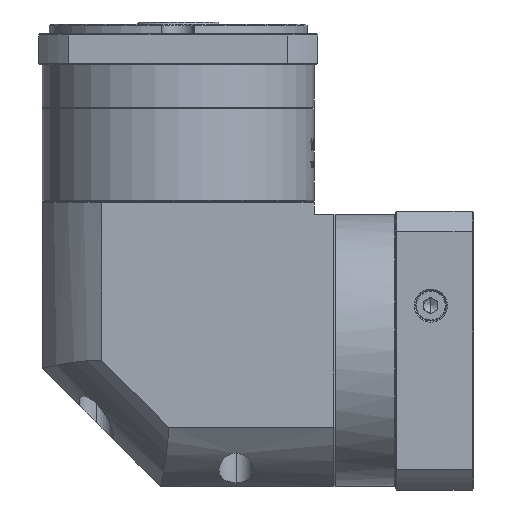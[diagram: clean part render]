
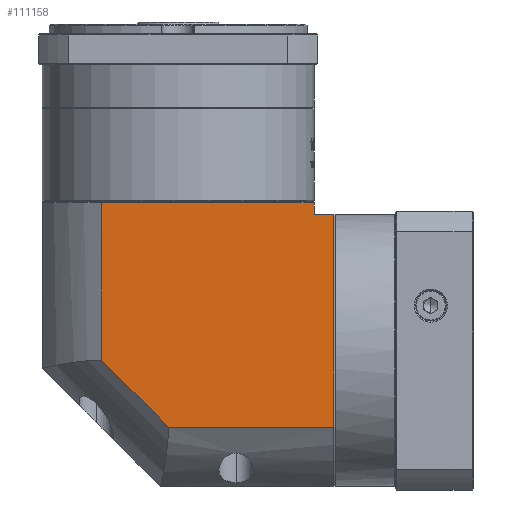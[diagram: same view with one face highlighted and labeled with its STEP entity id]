
A CAD part, left-side view. The second image highlights one B-rep face of the part: STEP entity #111158.
In plain terms, the highlighted planar face has unit normal (-1, 0, 0).
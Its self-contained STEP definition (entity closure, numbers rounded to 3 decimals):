
#924 = FACE_OUTER_BOUND ( 'NONE', #125488, .T. ) ;
#1179 = DIRECTION ( 'NONE',  ( 0., 0., 1. ) ) ;
#8498 = LINE ( 'NONE', #148209, #107764 ) ;
#14620 = DIRECTION ( 'NONE',  ( 0., 0.707, 0.707 ) ) ;
#15143 = DIRECTION ( 'NONE',  ( 0., -1., 0. ) ) ;
#15908 = VECTOR ( 'NONE', #15143, 1000. ) ;
#17313 = VERTEX_POINT ( 'NONE', #66019 ) ;
#20308 = CARTESIAN_POINT ( 'NONE',  ( -255.935, -91.17, 85.825 ) ) ;
#22529 = PLANE ( 'NONE',  #69598 ) ;
#28195 = CARTESIAN_POINT ( 'NONE',  ( -255.935, -99.57, 80.825 ) ) ;
#30104 = ORIENTED_EDGE ( 'NONE', *, *, #84473, .F. ) ;
#35068 = EDGE_CURVE ( 'NONE', #124209, #17313, #123212, .T. ) ;
#37745 = LINE ( 'NONE', #89195, #119140 ) ;
#39122 = VECTOR ( 'NONE', #72729, 1000. ) ;
#39555 = CARTESIAN_POINT ( 'NONE',  ( -255.935, -29.609, -9.075 ) ) ;
#39814 = CARTESIAN_POINT ( 'NONE',  ( -255.935, -91.17, -34.175 ) ) ;
#41942 = ORIENTED_EDGE ( 'NONE', *, *, #93011, .F. ) ;
#45672 = DIRECTION ( 'NONE',  ( 0., 1., 0. ) ) ;
#46180 = VERTEX_POINT ( 'NONE', #127146 ) ;
#49846 = LINE ( 'NONE', #116550, #15908 ) ;
#49961 = VECTOR ( 'NONE', #1179, 1000. ) ;
#50288 = DIRECTION ( 'NONE',  ( 0., 1., 0. ) ) ;
#50501 = ORIENTED_EDGE ( 'NONE', *, *, #35068, .F. ) ;
#53857 = CARTESIAN_POINT ( 'NONE',  ( -255.935, -1.271, 92.325 ) ) ;
#57061 = VERTEX_POINT ( 'NONE', #102627 ) ;
#58177 = ORIENTED_EDGE ( 'NONE', *, *, #145457, .F. ) ;
#66019 = CARTESIAN_POINT ( 'NONE',  ( -255.935, -1.271, 85.825 ) ) ;
#66300 = LINE ( 'NONE', #39814, #100079 ) ;
#69598 = AXIS2_PLACEMENT_3D ( 'NONE', #160474, #111229, #84754 ) ;
#70783 = LINE ( 'NONE', #97705, #39122 ) ;
#72729 = DIRECTION ( 'NONE',  ( 0., 0., -1. ) ) ;
#84473 = EDGE_CURVE ( 'NONE', #160167, #57061, #70783, .T. ) ;
#84754 = DIRECTION ( 'NONE',  ( 0., 1., 0. ) ) ;
#89195 = CARTESIAN_POINT ( 'NONE',  ( -255.935, 23.83, -9.075 ) ) ;
#89314 = DIRECTION ( 'NONE',  ( 0., 0., 1. ) ) ;
#93011 = EDGE_CURVE ( 'NONE', #17313, #148007, #49846, .T. ) ;
#94412 = ORIENTED_EDGE ( 'NONE', *, *, #127128, .T. ) ;
#96712 = EDGE_CURVE ( 'NONE', #117401, #124209, #104249, .T. ) ;
#97705 = CARTESIAN_POINT ( 'NONE',  ( -255.935, -99.57, 92.325 ) ) ;
#100079 = VECTOR ( 'NONE', #89314, 1000. ) ;
#102627 = CARTESIAN_POINT ( 'NONE',  ( -255.935, -99.57, -9.075 ) ) ;
#104249 = LINE ( 'NONE', #39555, #133931 ) ;
#107764 = VECTOR ( 'NONE', #45672, 1000. ) ;
#111158 = ADVANCED_FACE ( 'NONE', ( #924 ), #22529, .F. ) ;
#111229 = DIRECTION ( 'NONE',  ( 1., 0., 0. ) ) ;
#116550 = CARTESIAN_POINT ( 'NONE',  ( -255.935, 23.83, 85.825 ) ) ;
#117401 = VERTEX_POINT ( 'NONE', #157437 ) ;
#117671 = ORIENTED_EDGE ( 'NONE', *, *, #151820, .T. ) ;
#119140 = VECTOR ( 'NONE', #50288, 1000. ) ;
#121545 = ORIENTED_EDGE ( 'NONE', *, *, #96712, .F. ) ;
#123212 = LINE ( 'NONE', #53857, #49961 ) ;
#124209 = VERTEX_POINT ( 'NONE', #144725 ) ;
#125488 = EDGE_LOOP ( 'NONE', ( #50501, #121545, #58177, #30104, #94412, #117671, #41942 ) ) ;
#127128 = EDGE_CURVE ( 'NONE', #160167, #46180, #8498, .T. ) ;
#127146 = CARTESIAN_POINT ( 'NONE',  ( -255.935, -91.17, 80.825 ) ) ;
#133931 = VECTOR ( 'NONE', #14620, 1000. ) ;
#144725 = CARTESIAN_POINT ( 'NONE',  ( -255.935, -1.271, 19.263 ) ) ;
#145457 = EDGE_CURVE ( 'NONE', #57061, #117401, #37745, .T. ) ;
#148007 = VERTEX_POINT ( 'NONE', #20308 ) ;
#148209 = CARTESIAN_POINT ( 'NONE',  ( -255.935, -91.17, 80.825 ) ) ;
#151820 = EDGE_CURVE ( 'NONE', #46180, #148007, #66300, .T. ) ;
#157437 = CARTESIAN_POINT ( 'NONE',  ( -255.935, -29.609, -9.075 ) ) ;
#160167 = VERTEX_POINT ( 'NONE', #28195 ) ;
#160474 = CARTESIAN_POINT ( 'NONE',  ( -255.935, 23.83, 92.325 ) ) ;
